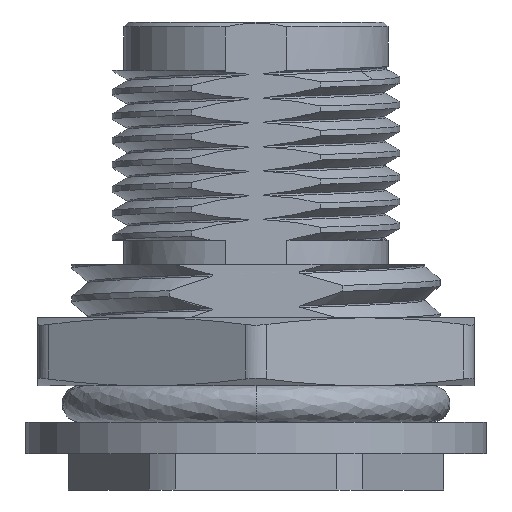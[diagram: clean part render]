
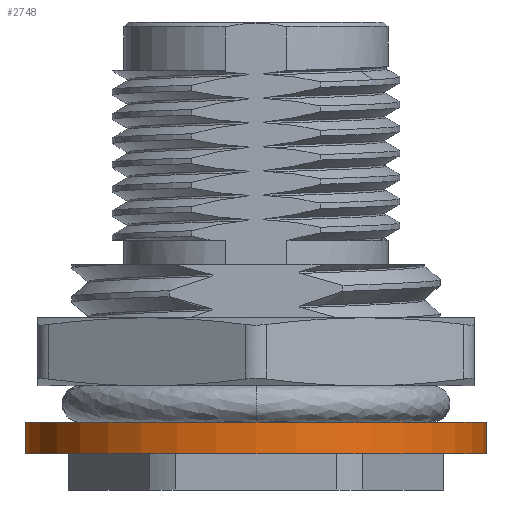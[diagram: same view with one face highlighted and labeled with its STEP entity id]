
A CAD part, left-side view. The second image highlights one B-rep face of the part: STEP entity #2748.
In plain terms, the highlighted cylindrical face has radius 9.5 mm (diameter 19 mm), a partial arc.
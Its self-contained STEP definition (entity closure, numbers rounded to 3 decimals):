
#162 = DIRECTION ( 'NONE',  ( 1., 0., 0. ) ) ;
#221 = CARTESIAN_POINT ( 'NONE',  ( 0., 9.5, -16.5 ) ) ;
#331 = CARTESIAN_POINT ( 'NONE',  ( 0., -9.5, -20.265 ) ) ;
#1097 = DIRECTION ( 'NONE',  ( 0., 0., 1. ) ) ;
#1271 = ORIENTED_EDGE ( 'NONE', *, *, #16264, .T. ) ;
#1374 = AXIS2_PLACEMENT_3D ( 'NONE', #1678, #13886, #18584 ) ;
#1678 = CARTESIAN_POINT ( 'NONE',  ( 0., 0., -17.8 ) ) ;
#2032 = EDGE_CURVE ( 'NONE', #12004, #17524, #15115, .T. ) ;
#2748 = ADVANCED_FACE ( 'NONE', ( #5602 ), #8698, .T. ) ;
#3524 = CARTESIAN_POINT ( 'NONE',  ( 0., -9.5, -16.5 ) ) ;
#3825 = AXIS2_PLACEMENT_3D ( 'NONE', #18457, #15359, #162 ) ;
#4320 = VERTEX_POINT ( 'NONE', #221 ) ;
#5058 = EDGE_CURVE ( 'NONE', #4320, #6464, #12452, .T. ) ;
#5602 = FACE_OUTER_BOUND ( 'NONE', #13905, .T. ) ;
#6431 = DIRECTION ( 'NONE',  ( 0., 0., 1. ) ) ;
#6464 = VERTEX_POINT ( 'NONE', #3524 ) ;
#7205 = DIRECTION ( 'NONE',  ( 1., 0., 0. ) ) ;
#8698 = CYLINDRICAL_SURFACE ( 'NONE', #14335, 9.5 ) ;
#8734 = DIRECTION ( 'NONE',  ( 0., 0., -1. ) ) ;
#9028 = CARTESIAN_POINT ( 'NONE',  ( 0., 9.5, -20.265 ) ) ;
#12004 = VERTEX_POINT ( 'NONE', #16007 ) ;
#12132 = CARTESIAN_POINT ( 'NONE',  ( 0., -9.5, -17.8 ) ) ;
#12452 = CIRCLE ( 'NONE', #3825, 9.5 ) ;
#13128 = ORIENTED_EDGE ( 'NONE', *, *, #5058, .F. ) ;
#13886 = DIRECTION ( 'NONE',  ( 0., 0., 1. ) ) ;
#13905 = EDGE_LOOP ( 'NONE', ( #13128, #19426, #17809, #1271 ) ) ;
#14335 = AXIS2_PLACEMENT_3D ( 'NONE', #14797, #1097, #7205 ) ;
#14797 = CARTESIAN_POINT ( 'NONE',  ( 0., 0., -20.265 ) ) ;
#15115 = CIRCLE ( 'NONE', #1374, 9.5 ) ;
#15359 = DIRECTION ( 'NONE',  ( 0., 0., 1. ) ) ;
#16007 = CARTESIAN_POINT ( 'NONE',  ( 0., 9.5, -17.8 ) ) ;
#16264 = EDGE_CURVE ( 'NONE', #17524, #6464, #18634, .T. ) ;
#16625 = LINE ( 'NONE', #9028, #17700 ) ;
#16738 = VECTOR ( 'NONE', #6431, 1000. ) ;
#16847 = EDGE_CURVE ( 'NONE', #4320, #12004, #16625, .T. ) ;
#17524 = VERTEX_POINT ( 'NONE', #12132 ) ;
#17700 = VECTOR ( 'NONE', #8734, 1000. ) ;
#17809 = ORIENTED_EDGE ( 'NONE', *, *, #2032, .T. ) ;
#18457 = CARTESIAN_POINT ( 'NONE',  ( 0., 0., -16.5 ) ) ;
#18584 = DIRECTION ( 'NONE',  ( 1., 0., 0. ) ) ;
#18634 = LINE ( 'NONE', #331, #16738 ) ;
#19426 = ORIENTED_EDGE ( 'NONE', *, *, #16847, .T. ) ;
